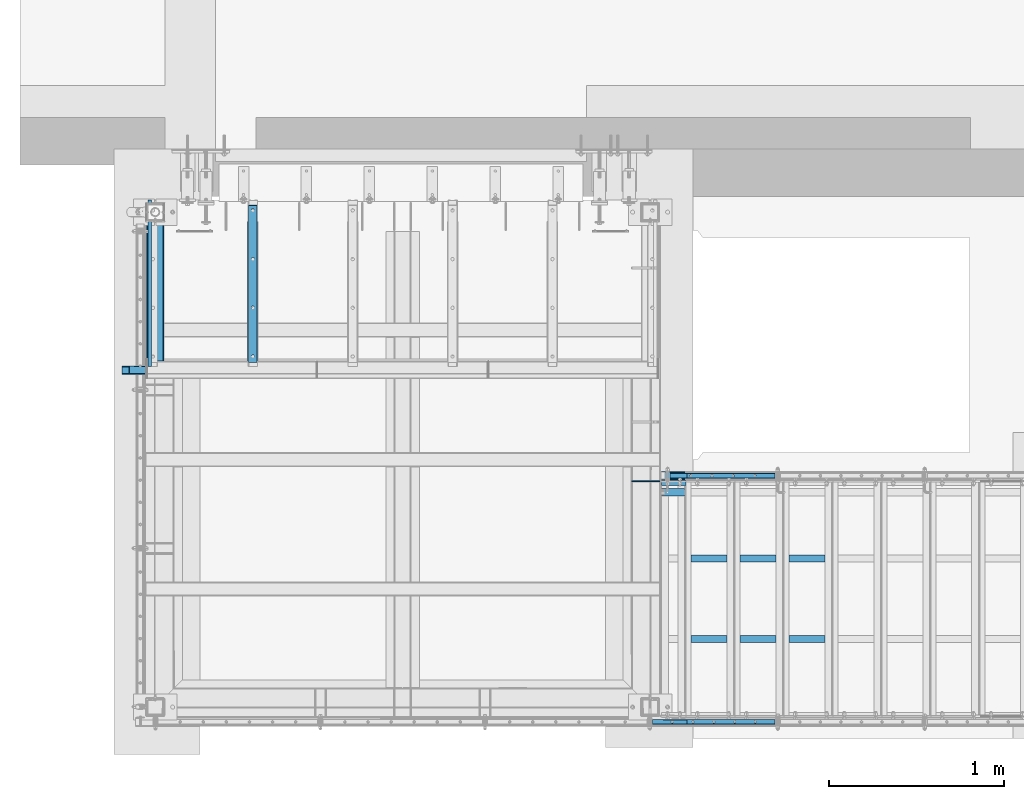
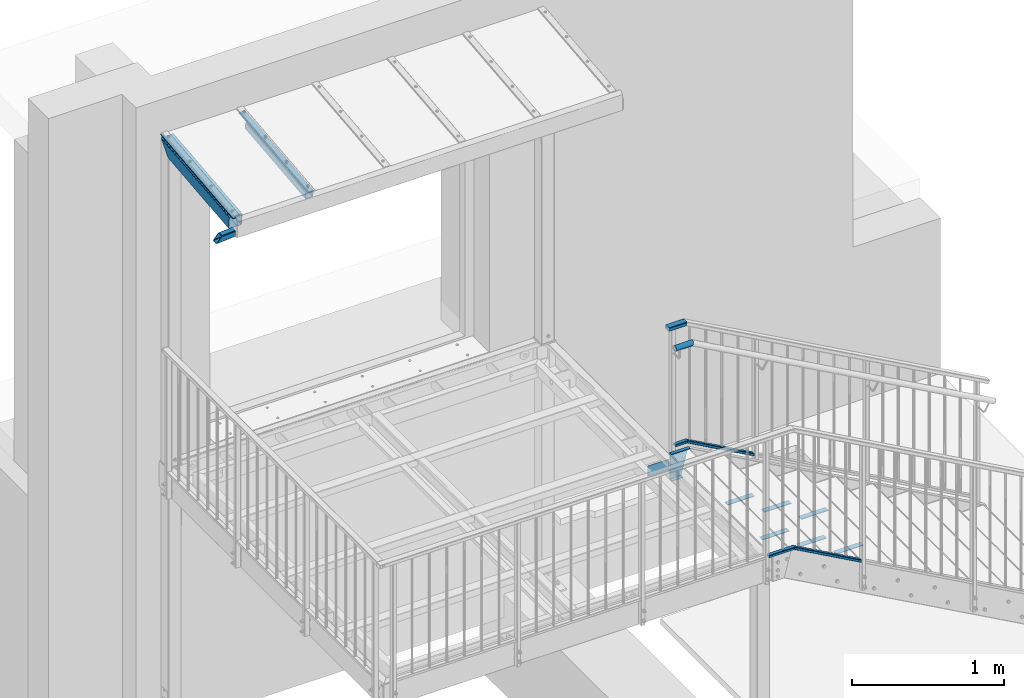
# One storey, part 15 of 116: 12 beams, 7 members, 23 openings.
"""IFC2X3 building model written with IfcOpenShell, lengths in millimetres."""

from ifc_helpers import new_model, entity, si_unit, converted_unit, point, frame, frame_2d, origin, origin_with_axes, origin_2d, origin_2d_with_axis, place, context, project, spatial, polyline, circle_curve, line_curve, trimmed, segment, composite_curve, rectangle, hollow_rectangle, circle, hollow_circle, outline, extrude, clip, halfspace, material, element, save


model = new_model("IFC2X3")

# Units and contexts
model_context = context("Model", 3, precision=1e-09, world=origin_with_axes())
ifc_project = project(units=[si_unit("LENGTHUNIT", "METRE", prefix="MILLI"), si_unit("AREAUNIT", "SQUARE_METRE"), si_unit("VOLUMEUNIT", "CUBIC_METRE"), converted_unit("PLANEANGLEUNIT", "DEGREE", entity("IfcPlaneAngleMeasure", 0.01745329), si_unit("PLANEANGLEUNIT", "RADIAN"), dimensions=[0, 0, 0, 0, 0, 0, 0])], contexts=[model_context])

# Site, building, storey
site_placement = place(None, origin_with_axes())
site = spatial("IfcSite", under=ifc_project, at=site_placement, Name="Site", CompositionType="ELEMENT")
building_placement = place(site_placement, origin_with_axes())
building = spatial("IfcBuilding", under=site, at=building_placement, Name="Struktur 1", CompositionType="ELEMENT")
storey_placement = place(building_placement, origin_with_axes())
storey = spatial("IfcBuildingStorey", under=building, at=storey_placement, Name="Default Storey", CompositionType="ELEMENT", Elevation=0.0)

# Member, openings
ifc_material_1 = material(Name="S235JR")
member_1_placement = place(None, frame((55337.049134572, 12067.455432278, 2549.767412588), z_axis=(0.0, 0.994521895, 0.104528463), x_axis=(0.0, -0.104528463, 0.994521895)))
member_1 = element("IfcMember", 1, at=member_1_placement, inside=storey, material=ifc_material_1, Name="-", ObjectType="-", context=model_context, shape_type="Clipping", body=[
    clip(extrude(hollow_rectangle(XDim=100.0, YDim=100.0, WallThickness=4.0, InnerFilletRadius=4.0, OuterFilletRadius=8.0, at=origin_2d()), origin(), (0.0, 0.0, -1.0), 955.603150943), halfspace(frame((-6618.382172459, -55337.049134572, -7456.135013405), z_axis=(0.743144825, 0.0, -0.669130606), x_axis=(0.0, 1.0, 0.0)), True)),
])
opening_1_placement = place(member_1_placement, frame((25.0, 45.5, -955.603150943), z_axis=(0.0, 1.0, 0.0), x_axis=(1.0, 0.0, 0.0)))
element("IfcOpeningElement", 2, at=opening_1_placement, cuts=member_1, ObjectType="Opening", context=model_context, shape_type="SweptSolid", body=[
    extrude(circle(Radius=6.001, at=frame_2d((10.0, -10.0), x_axis=(1.0, 0.0))), origin(), (0.0, 0.0, 1.0), 5.0),
])
opening_2_placement = place(member_1_placement, frame((25.0, 45.5, -955.603150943), z_axis=(0.0, 1.0, 0.0), x_axis=(1.0, 0.0, 0.0)))
element("IfcOpeningElement", 3, at=opening_2_placement, cuts=member_1, ObjectType="Opening", context=model_context, shape_type="SweptSolid", body=[
    extrude(circle(Radius=6.001, at=frame_2d((-60.0, -10.0), x_axis=(1.0, 0.0))), origin(), (0.0, 0.0, 1.0), 5.0),
])

member_2_placement = place(None, frame((55895.549134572, 11905.637117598, 2552.869787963), z_axis=(0.0, 0.994521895, 0.104528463), x_axis=(0.0, -0.104528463, 0.994521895)))
member_2 = element("IfcMember", 4, at=member_2_placement, inside=storey, material=ifc_material_1, Name="-", ObjectType="-", context=model_context, shape_type="SweptSolid", body=[
    extrude(hollow_rectangle(XDim=60.0, YDim=60.0, WallThickness=3.0, InnerFilletRadius=3.0, OuterFilletRadius=6.0, at=origin_2d()), origin(), (0.0, 0.0, -1.0), 794.995580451),
])
opening_3_placement = place(member_2_placement, frame((0.0, -26.5, 0.0), z_axis=(0.0, -1.0, 0.0), x_axis=(1.0, 0.0, 0.0)))
element("IfcOpeningElement", 5, at=opening_3_placement, cuts=member_2, ObjectType="Opening", context=model_context, shape_type="SweptSolid", body=[
    extrude(circle(Radius=6.001, at=frame_2d((0.0, -10.0), x_axis=(1.0, 0.0))), origin(), (0.0, 0.0, 1.0), 4.0),
])
opening_4_placement = place(member_2_placement, frame((0.0, 26.5, -794.995580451), z_axis=(0.0, 1.0, 0.0), x_axis=(1.0, 0.0, 0.0)))
element("IfcOpeningElement", 6, at=opening_4_placement, cuts=member_2, ObjectType="Opening", context=model_context, shape_type="SweptSolid", body=[
    extrude(circle(Radius=6.001, at=frame_2d((0.0, -10.0), x_axis=(1.0, 0.0))), origin(), (0.0, 0.0, 1.0), 4.0),
])

# Member
ifc_material_2 = material(Name="Alu")
member_3_placement = place(None, frame((55306.549134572, 12030.977969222, 2604.011634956), z_axis=(0.0, 0.994521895, 0.104528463), x_axis=(0.0, -0.104528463, 0.994521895)))
element("IfcMember", 7, at=member_3_placement, inside=storey, material=ifc_material_2, Name="-", ObjectType="-", context=model_context, shape_type="SweptSolid", body=[
    extrude(rectangle(XDim=8.0, YDim=20.0, at=origin_2d()), origin(), (0.0, 0.0, -1.0), 954.99558045),
])

# Member, opening
member_4_placement = place(None, frame((55327.404473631, 11058.358883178, 2417.742706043), z_axis=(0.99756405, 0.0, 0.069756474), x_axis=(0.0, 1.0, 0.0)))
member_4 = element("IfcMember", 8, at=member_4_placement, inside=storey, material=ifc_material_1, Name="-", ObjectType="-", context=model_context, shape_type="Clipping", body=[
    clip(extrude(hollow_rectangle(XDim=50.0, YDim=50.0, WallThickness=4.0, InnerFilletRadius=4.0, OuterFilletRadius=8.0, at=origin_2d()), origin(), (0.0, 0.0, -1.0), 182.189913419), halfspace(frame((-11058.358883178, -2409.386872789, -203.923418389), z_axis=(0.0, 0.069756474, -0.99756405), x_axis=(-1.0, 0.0, 0.0)), True)),
])
opening_5_placement = place(member_4_placement, frame((125.1, 0.0, -182.189913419), z_axis=(-1.0, 0.0, 0.0), x_axis=(0.0, 0.0, 1.0)))
element("IfcOpeningElement", 9, at=opening_5_placement, cuts=member_4, ObjectType="Opening", context=model_context, shape_type="SweptSolid", body=[
    extrude(outline(polyline([(-30.892254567, -51.89366878), (74.283607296, 53.282193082), (-63.136116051, 53.282193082), (-30.892254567, -51.89366878)])), origin(), (0.0, 0.0, 1.0), 250.2),
])

# Member, openings
member_5_placement = place(None, frame((55895.549134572, 11101.758740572, 2500.052276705), z_axis=(0.0, -0.994521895, -0.104528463), x_axis=(1.0, 0.0, 0.0)))
member_5 = element("IfcMember", 10, at=member_5_placement, inside=storey, material=ifc_material_1, Name="-", ObjectType="-", context=model_context, shape_type="SweptSolid", body=[
    extrude(outline(polyline([(-25.0, 1.5), (-25.0, -1.5), (25.0, -1.5), (25.0, 1.5), (-25.0, 1.5)])), origin(), (0.0, 0.0, -1.0), 904.995580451),
])
opening_6_placement = place(member_5_placement, frame((2e-09, -2.0, -317.497790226), z_axis=(0.0, 1.0, 0.0), x_axis=(1.0, 0.0, 0.0)))
element("IfcOpeningElement", 11, at=opening_6_placement, cuts=member_5, ObjectType="Opening", context=model_context, shape_type="SweptSolid", body=[
    extrude(circle(Radius=8.001, at=origin_2d_with_axis()), origin(), (0.0, 0.0, 1.0), 4.0),
])
opening_7_placement = place(member_5_placement, frame((2e-09, -2.0, -597.497790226), z_axis=(0.0, 1.0, 0.0), x_axis=(1.0, 0.0, 0.0)))
element("IfcOpeningElement", 12, at=opening_7_placement, cuts=member_5, ObjectType="Opening", context=model_context, shape_type="SweptSolid", body=[
    extrude(circle(Radius=8.001, at=origin_2d_with_axis()), origin(), (0.0, 0.0, 1.0), 4.0),
])
opening_8_placement = place(member_5_placement, frame((2e-09, -2.0, -877.497790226), z_axis=(0.0, 1.0, 0.0), x_axis=(1.0, 0.0, 0.0)))
element("IfcOpeningElement", 13, at=opening_8_placement, cuts=member_5, ObjectType="Opening", context=model_context, shape_type="SweptSolid", body=[
    extrude(circle(Radius=8.001, at=origin_2d_with_axis()), origin(), (0.0, 0.0, 1.0), 4.0),
])
opening_9_placement = place(member_5_placement, frame((2e-09, -2.0, -37.497790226), z_axis=(0.0, 1.0, 0.0), x_axis=(1.0, 0.0, 0.0)))
element("IfcOpeningElement", 14, at=opening_9_placement, cuts=member_5, ObjectType="Opening", context=model_context, shape_type="SweptSolid", body=[
    extrude(circle(Radius=8.001, at=origin_2d_with_axis()), origin(), (0.0, 0.0, 1.0), 4.0),
])

# Beam, openings
beam_1_placement = place(None, frame((58598.529568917, 10415.358883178, -108.5), z_axis=(1.0, 0.0, 0.0), x_axis=(0.0, -1.0, 0.0)))
beam_1 = element("IfcBeam", 15, at=beam_1_placement, inside=storey, material=ifc_material_1, Name="-", ObjectType="-", context=model_context, shape_type="Clipping", body=[
    clip(extrude(outline(composite_curve([segment(trimmed(line_curve((15.0, 108.5), (-1.0, 0.0), 25.0), [point((15.0, 108.5))], [point((-10.0, 108.5))], True, "CARTESIAN"), True, "CONTINUOUS"), segment(trimmed(circle_curve(frame_2d((-9.999999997, 103.499999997), x_axis=(1.0, 0.0)), 5.000000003), [point((-10.0, 108.5))], [point((-15.0, 103.5))], True, "CARTESIAN"), True, "CONTINUOUS"), segment(trimmed(line_curve((-15.0, 103.5), (0.0, -1.0), 207.0), [point((-15.0, 103.5))], [point((-15.0, -103.5))], True, "CARTESIAN"), True, "CONTINUOUS"), segment(trimmed(circle_curve(frame_2d((-9.999999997, -103.499999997), x_axis=(1.0, 0.0)), 5.000000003), [point((-15.0, -103.5))], [point((-10.0, -108.5))], True, "CARTESIAN"), True, "CONTINUOUS"), segment(trimmed(line_curve((-10.0, -108.5), (1.0, 0.0), 25.0), [point((-10.0, -108.5))], [point((15.0, -108.5))], True, "CARTESIAN"), True, "CONTINUOUS"), segment(trimmed(line_curve((15.0, -108.5), (0.0, 1.0), 4.0), [point((15.0, -108.5))], [point((15.0, -104.5))], True, "CARTESIAN"), True, "CONTINUOUS"), segment(trimmed(line_curve((15.0, -104.5), (-1.0, 0.0), 25.0), [point((15.0, -104.5))], [point((-10.0, -104.5))], True, "CARTESIAN"), True, "CONTINUOUS"), segment(trimmed(circle_curve(frame_2d((-9.999999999, -103.499999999), x_axis=(-1.0, 0.0)), 1.000000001), [point((-10.0, -104.5))], [point((-11.0, -103.5))], False, "CARTESIAN"), True, "CONTINUOUS"), segment(trimmed(line_curve((-11.0, -103.5), (0.0, 1.0), 207.0), [point((-11.0, -103.5))], [point((-11.0, 103.5))], True, "CARTESIAN"), True, "CONTINUOUS"), segment(trimmed(circle_curve(frame_2d((-9.999999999, 103.499999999), x_axis=(-1.0, 0.0)), 1.000000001), [point((-11.0, 103.5))], [point((-10.0, 104.5))], False, "CARTESIAN"), True, "CONTINUOUS"), segment(trimmed(line_curve((-10.0, 104.5), (1.0, 0.0), 25.0), [point((-10.0, 104.5))], [point((15.0, 104.5))], True, "CARTESIAN"), True, "CONTINUOUS"), segment(trimmed(line_curve((15.0, 104.5), (0.0, 1.0), 4.0), [point((15.0, 104.5))], [point((15.0, 108.5))], True, "CARTESIAN"), True, "CONTINUOUS")], self_intersect=False)), origin(), (0.0, 0.0, -1.0), 366.480434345), halfspace(frame((10415.358883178, 14027.067776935, -3876.640516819), z_axis=(0.0, -0.250106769, -0.968218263), x_axis=(1.0, 0.0, 0.0)), True)),
])
opening_10_placement = place(beam_1_placement, frame((-10.5, -40.5, -268.481434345), z_axis=(1.0, 0.0, 0.0), x_axis=(0.0, 1.0, 0.0)))
element("IfcOpeningElement", 16, at=opening_10_placement, cuts=beam_1, ObjectType="Opening", context=model_context, shape_type="SweptSolid", body=[
    extrude(circle(Radius=7.001, at=frame_2d((0.0, 7.001), x_axis=(1.0, 0.0))), origin(), (0.0, 0.0, -1.0), 5.0),
])
opening_11_placement = place(beam_1_placement, frame((-10.5, 74.500000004, -338.481434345), z_axis=(1.0, 0.0, 0.0), x_axis=(0.0, 1.0, 0.0)))
element("IfcOpeningElement", 17, at=opening_11_placement, cuts=beam_1, ObjectType="Opening", context=model_context, shape_type="SweptSolid", body=[
    extrude(circle(Radius=7.001, at=frame_2d((0.0, 7.001), x_axis=(1.0, 0.0))), origin(), (0.0, 0.0, -1.0), 5.0),
])
opening_12_placement = place(beam_1_placement, frame((-15.5, 24.500000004, -331.480434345), z_axis=(1.0, 0.0, 0.0), x_axis=(0.0, 0.0, 1.0)))
element("IfcOpeningElement", 18, at=opening_12_placement, cuts=beam_1, ObjectType="Opening", context=model_context, shape_type="SweptSolid", body=[
    extrude(circle(Radius=7.001, at=origin_2d_with_axis()), origin(), (0.0, 0.0, 1.0), 5.0),
])
opening_13_placement = place(beam_1_placement, frame((-15.5, -40.5, -331.480434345), z_axis=(1.0, 0.0, 0.0), x_axis=(0.0, 0.0, 1.0)))
element("IfcOpeningElement", 19, at=opening_13_placement, cuts=beam_1, ObjectType="Opening", context=model_context, shape_type="SweptSolid", body=[
    extrude(circle(Radius=7.001, at=origin_2d_with_axis()), origin(), (0.0, 0.0, 1.0), 5.0),
])

# Member, openings
member_6_placement = place(None, frame((58900.076890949, 9047.359883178, -266.01111299), z_axis=(0.874893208, 0.0, -0.484315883), x_axis=(0.484315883, 0.0, 0.874893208)))
member_6 = element("IfcMember", 20, at=member_6_placement, inside=storey, material=ifc_material_1, Name="-", ObjectType="-", context=model_context, shape_type="Clipping", body=[
    clip(clip(extrude(hollow_rectangle(XDim=20.0, YDim=30.0, WallThickness=2.0, InnerFilletRadius=2.0, OuterFilletRadius=4.0, at=origin_2d()), origin(), (0.0, 0.0, -1.0), 619.489988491), halfspace(frame((223.999702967, 9047.359883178, -144.606643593), z_axis=(-0.484315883, 0.0, -0.874893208), x_axis=(0.0, 1.0, 0.0)), True)), halfspace(frame((-14159.255466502, 9047.359883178, 3056.700114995), z_axis=(0.250106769, 0.0, 0.968218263), x_axis=(0.0, -1.0, 0.0)), True)),
])
opening_14_placement = place(member_6_placement, frame((284.53953185, 0.0, -314.193513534), z_axis=(0.874893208, 0.0, -0.484315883), x_axis=(0.0, 1.0, 0.0)))
element("IfcOpeningElement", 21, at=opening_14_placement, cuts=member_6, ObjectType="Opening", context=model_context, shape_type="SweptSolid", body=[
    extrude(outline(circle_curve(frame_2d((0.0, 6.051), x_axis=(1.0, 0.0)), 6.051)), origin(), (0.0, 0.0, -1.0), 325.253071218),
])
opening_15_placement = place(member_6_placement, frame((226.905941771, 0.0, -418.30580529), z_axis=(0.874893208, 0.0, -0.484315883), x_axis=(0.0, 1.0, 0.0)))
element("IfcOpeningElement", 22, at=opening_15_placement, cuts=member_6, ObjectType="Opening", context=model_context, shape_type="SweptSolid", body=[
    extrude(outline(circle_curve(frame_2d((0.0, 6.051), x_axis=(1.0, 0.0)), 6.051)), origin(), (0.0, 0.0, -1.0), 259.378071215),
])
opening_16_placement = place(member_6_placement, frame((169.272351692, 0.0, -522.418097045), z_axis=(0.874893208, 0.0, -0.484315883), x_axis=(0.0, 1.0, 0.0)))
element("IfcOpeningElement", 23, at=opening_16_placement, cuts=member_6, ObjectType="Opening", context=model_context, shape_type="SweptSolid", body=[
    extrude(outline(circle_curve(frame_2d((0.0, 6.051), x_axis=(1.0, 0.0)), 6.051)), origin(), (0.0, 0.0, -1.0), 193.503071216),
])
opening_17_placement = place(member_6_placement, frame((111.638527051, 0.0, -626.530812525), z_axis=(0.874893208, 0.0, -0.484315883), x_axis=(0.0, 1.0, 0.0)))
element("IfcOpeningElement", 24, at=opening_17_placement, cuts=member_6, ObjectType="Opening", context=model_context, shape_type="SweptSolid", body=[
    extrude(outline(circle_curve(frame_2d((0.0, 6.051), x_axis=(1.0, 0.0)), 6.051)), origin(), (0.0, 0.0, -1.0), 127.627803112),
])

# Beam, opening
beam_2_placement = place(None, frame((58392.998913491, 9047.359883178, 25.0), z_axis=(1.0, 0.0, 0.0), x_axis=(0.0, 0.0, 1.0)))
beam_2 = element("IfcBeam", 25, at=beam_2_placement, inside=storey, material=ifc_material_1, Name="-", ObjectType="-", context=model_context, shape_type="Clipping", body=[
    clip(extrude(hollow_rectangle(XDim=20.0, YDim=30.0, WallThickness=2.0, InnerFilletRadius=2.0, OuterFilletRadius=4.0, at=origin_2d()), origin(), (0.0, 0.0, -1.0), 212.94977892), halfspace(frame((-14159.255466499, 9047.359883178, -3676.190103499), z_axis=(0.250106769, 0.0, -0.968218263), x_axis=(0.0, 1.0, 0.0)), True)),
])
opening_18_placement = place(beam_2_placement, frame((7.5, 0.0, -99.94977892), z_axis=(1.0, 0.0, 0.0), x_axis=(0.0, 1.0, 0.0)))
element("IfcOpeningElement", 26, at=opening_18_placement, cuts=beam_2, ObjectType="Opening", context=model_context, shape_type="SweptSolid", body=[
    extrude(circle(Radius=6.051, at=origin_2d_with_axis()), origin(), (0.0, 0.0, 1.0), 3.0),
])

# Beam
beam_3_placement = place(None, frame((58392.998913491, 10455.357883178, 25.0), z_axis=(-1.0, 0.0, 0.0), x_axis=(0.0, 0.0, 1.0)))
element("IfcBeam", 27, at=beam_3_placement, inside=storey, material=ifc_material_1, Name="-", ObjectType="-", context=model_context, shape_type="Clipping", body=[
    clip(extrude(hollow_rectangle(XDim=20.0, YDim=30.0, WallThickness=2.0, InnerFilletRadius=2.0, OuterFilletRadius=4.0, at=origin_2d()), origin(), (0.0, 0.0, 1.0), 110.94977892), halfspace(frame((-14159.255466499, -10455.357883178, 3676.190103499), z_axis=(0.250106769, 0.0, 0.968218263), x_axis=(0.0, -1.0, 0.0)), True)),
])

# Member, openings
member_7_placement = place(None, frame((58900.076890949, 10455.357883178, -266.01111299), z_axis=(-0.874893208, 0.0, 0.484315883), x_axis=(0.484315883, 0.0, 0.874893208)))
member_7 = element("IfcMember", 28, at=member_7_placement, inside=storey, material=ifc_material_1, Name="-", ObjectType="-", context=model_context, shape_type="Clipping", body=[
    clip(clip(extrude(hollow_rectangle(XDim=20.0, YDim=30.0, WallThickness=2.0, InnerFilletRadius=2.0, OuterFilletRadius=4.0, at=origin_2d()), origin(), (0.0, 0.0, 1.0), 619.489988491), halfspace(frame((223.999702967, -10455.357883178, 144.606643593), z_axis=(-0.484315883, 0.0, 0.874893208), x_axis=(0.0, -1.0, 0.0)), True)), halfspace(frame((-14159.255466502, -10455.357883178, -3056.700114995), z_axis=(0.250106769, 0.0, -0.968218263), x_axis=(0.0, 1.0, 0.0)), True)),
])
opening_19_placement = place(member_7_placement, frame((105.052065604, 0.0, 638.42893643), z_axis=(0.874893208, 0.0, 0.484315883), x_axis=(0.0, 1.0, 0.0)))
element("IfcOpeningElement", 29, at=opening_19_placement, cuts=member_7, ObjectType="Opening", context=model_context, shape_type="SweptSolid", body=[
    extrude(outline(circle_curve(frame_2d((0.0, -6.051), x_axis=(1.0, 0.0)), 6.051)), origin(), (0.0, 0.0, -1.0), 120.099499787),
])
opening_20_placement = place(member_7_placement, frame((164.332329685, 0.0, 531.342007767), z_axis=(0.874893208, 0.0, 0.484315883), x_axis=(0.0, 1.0, 0.0)))
element("IfcOpeningElement", 30, at=opening_20_placement, cuts=member_7, ObjectType="Opening", context=model_context, shape_type="SweptSolid", body=[
    extrude(outline(circle_curve(frame_2d((0.0, -6.051), x_axis=(1.0, 0.0)), 6.051)), origin(), (0.0, 0.0, -1.0), 187.856642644),
])
opening_21_placement = place(member_7_placement, frame((223.612593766, 0.0, 424.255079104), z_axis=(0.874893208, 0.0, 0.484315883), x_axis=(0.0, 1.0, 0.0)))
element("IfcOpeningElement", 31, at=opening_21_placement, cuts=member_7, ObjectType="Opening", context=model_context, shape_type="SweptSolid", body=[
    extrude(outline(circle_curve(frame_2d((0.0, -6.051), x_axis=(1.0, 0.0)), 6.051)), origin(), (0.0, 0.0, -1.0), 255.613785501),
])
opening_22_placement = place(member_7_placement, frame((282.892857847, 0.0, 317.168150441), z_axis=(0.874893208, 0.0, 0.484315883), x_axis=(0.0, 1.0, 0.0)))
element("IfcOpeningElement", 32, at=opening_22_placement, cuts=member_7, ObjectType="Opening", context=model_context, shape_type="SweptSolid", body=[
    extrude(outline(circle_curve(frame_2d((0.0, -6.051), x_axis=(1.0, 0.0)), 6.051)), origin(), (0.0, 0.0, -1.0), 323.370928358),
])

# Beam, opening
beam_4_placement = place(None, frame((58232.049134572, 10455.357883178, 980.0), z_axis=(1.0, 0.0, 0.0), x_axis=(0.0, 0.0, -1.0)))
beam_4 = element("IfcBeam", 33, at=beam_4_placement, inside=storey, material=ifc_material_1, Name="-", ObjectType="-", context=model_context, shape_type="Clipping", body=[
    clip(extrude(hollow_rectangle(XDim=30.0, YDim=50.0, WallThickness=3.0, InnerFilletRadius=3.0, OuterFilletRadius=6.0, at=origin_2d()), origin(), (0.0, 0.0, 1.0), 160.817661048), halfspace(frame((15051.702041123, -10455.357883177, -3757.398379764), z_axis=(-0.250106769, 0.0, -0.968218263), x_axis=(0.0, -1.0, 0.0)), True)),
])
opening_23_placement = place(beam_4_placement, frame((15.5, 0.0, 0.0), z_axis=(-1.0, 0.0, 0.0), x_axis=(0.0, 0.0, 1.0)))
element("IfcOpeningElement", 34, at=opening_23_placement, cuts=beam_4, ObjectType="Opening", context=model_context, shape_type="SweptSolid", body=[
    extrude(circle(Radius=5.001, at=frame_2d((35.0, 0.0), x_axis=(1.0, 0.0))), origin(), (0.0, 0.0, 1.0), 4.0),
])

# Beams
beam_5_placement = place(None, frame((58063.049134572, 10423.358883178, -88.0), z_axis=(1.0, 0.0, 0.0), x_axis=(0.0, 1.0, 0.0)))
element("IfcBeam", 35, at=beam_5_placement, inside=storey, material=ifc_material_1, Name="-", ObjectType="-", context=model_context, shape_type="SweptSolid", body=[
    extrude(rectangle(XDim=6.0, YDim=80.0, at=origin_2d()), origin(), (0.0, 0.0, 1.0), 158.0),
])
for number, where, z_axis, x_axis in (
    (36, (59166.049134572, 9521.358883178, -510.5), (1.0, 0.0, 0.0), (0.0, 0.0, 1.0)),
    (37, (59166.049134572, 9981.358883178, -510.5), (1.0, 0.0, 0.0), (0.0, 0.0, 1.0)),
    (38, (58886.049134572, 9521.358883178, -355.5), (1.0, 0.0, 0.0), (0.0, 0.0, 1.0)),
    (39, (58886.049134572, 9981.358883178, -355.5), (1.0, 0.0, 0.0), (0.0, 0.0, 1.0)),
    (40, (58606.049134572, 9521.358883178, -200.5), (1.0, 0.0, 0.0), (0.0, 0.0, 1.0)),
    (41, (58606.049134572, 9981.358883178, -200.5), (1.0, 0.0, 0.0), (0.0, 0.0, 1.0)),
):
    element("IfcBeam", number, at=place(None, frame(where, z_axis=z_axis, x_axis=x_axis)), inside=storey, material=ifc_material_1, Name="-", ObjectType="-", context=model_context, shape_type="SweptSolid", body=[
        extrude(rectangle(XDim=5.0, YDim=40.0, at=origin_2d()), origin(), (0.0, 0.0, -1.0), 204.0),
    ])
beam_6_placement = place(None, frame((58232.049134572, 10360.357883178, 873.790663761), z_axis=(1.0, 0.0, 0.0), x_axis=(0.0, 0.0, -1.0)))
element("IfcBeam", 42, at=beam_6_placement, inside=storey, material=ifc_material_1, Name="-", ObjectType="-", context=model_context, shape_type="Clipping", body=[
    clip(extrude(hollow_circle(Radius=21.2, WallThickness=2.6, at=origin_2d()), origin(), (0.0, 0.0, 1.0), 160.086664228), halfspace(frame((14951.752712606, -10360.357883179, -3733.1645143), z_axis=(-0.250106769, 0.0, -0.968218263), x_axis=(0.0, -1.0, 0.0)), True)),
])

save(model, "model.ifc")
